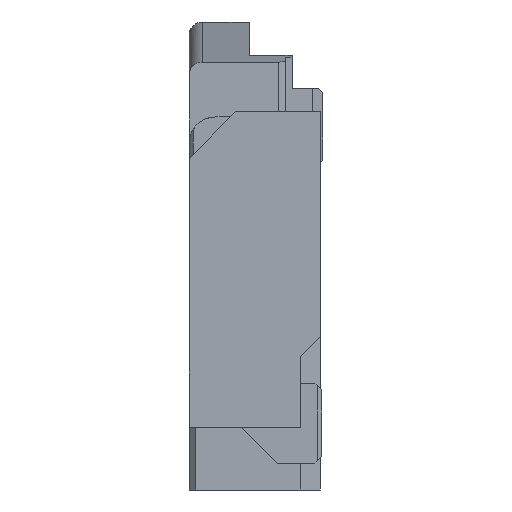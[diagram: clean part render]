
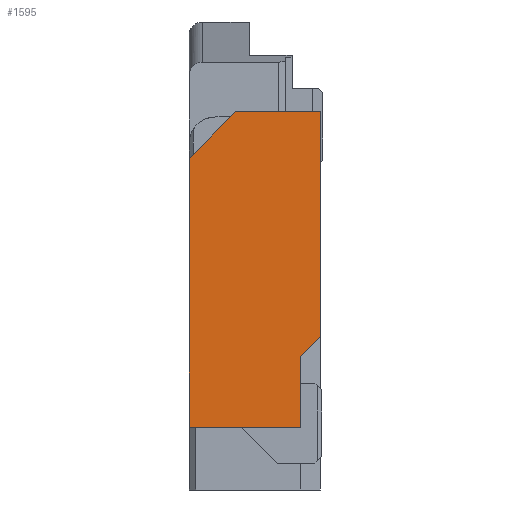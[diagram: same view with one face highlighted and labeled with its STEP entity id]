
A CAD part, left-side view. The second image highlights one B-rep face of the part: STEP entity #1595.
In plain terms, the highlighted planar face has unit normal (-1, 0, 0).
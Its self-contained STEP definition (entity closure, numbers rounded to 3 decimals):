
#365 = LINE ( 'NONE', #378, #9514 ) ;
#378 = CARTESIAN_POINT ( 'NONE',  ( -5.85, 1., -0.52 ) ) ;
#379 = DIRECTION ( 'NONE',  ( 0., -0.707, 0.707 ) ) ;
#497 = LINE ( 'NONE', #498, #11268 ) ;
#498 = CARTESIAN_POINT ( 'NONE',  ( -5.85, 0.17, -2. ) ) ;
#499 = DIRECTION ( 'NONE',  ( 0., 0.707, -0.707 ) ) ;
#858 = EDGE_LOOP ( 'NONE', ( #7540, #7541, #7542, #7543, #7544, #7545, #7546 ) ) ;
#1595 = ADVANCED_FACE ( 'NONE', ( #4529 ), #4530, .F. ) ;
#2028 = AXIS2_PLACEMENT_3D ( 'NONE', #4521, #4532, #4533 ) ;
#2339 = EDGE_CURVE ( 'NONE', #7450, #7444, #365, .T. ) ;
#2378 = EDGE_CURVE ( 'NONE', #7397, #7394, #497, .T. ) ;
#2389 = EDGE_CURVE ( 'NONE', #7402, #7397, #14911, .T. ) ;
#2429 = EDGE_CURVE ( 'NONE', #7444, #7402, #15031, .T. ) ;
#2440 = EDGE_CURVE ( 'NONE', #7449, #7450, #15064, .T. ) ;
#2521 = EDGE_CURVE ( 'NONE', #7429, #7449, #15306, .T. ) ;
#2542 = EDGE_CURVE ( 'NONE', #7429, #7394, #15369, .T. ) ;
#4521 = CARTESIAN_POINT ( 'NONE',  ( -5.85, 0.53, -3. ) ) ;
#4529 = FACE_OUTER_BOUND ( 'NONE', #858, .T. ) ;
#4530 = PLANE ( 'NONE',  #2028 ) ;
#4532 = DIRECTION ( 'NONE',  ( 1., 0., 0. ) ) ;
#4533 = DIRECTION ( 'NONE',  ( 0., 0., 1. ) ) ;
#7394 = VERTEX_POINT ( 'NONE', #13590 ) ;
#7397 = VERTEX_POINT ( 'NONE', #13596 ) ;
#7402 = VERTEX_POINT ( 'NONE', #13599 ) ;
#7429 = VERTEX_POINT ( 'NONE', #13626 ) ;
#7444 = VERTEX_POINT ( 'NONE', #13641 ) ;
#7449 = VERTEX_POINT ( 'NONE', #13646 ) ;
#7450 = VERTEX_POINT ( 'NONE', #13647 ) ;
#7540 = ORIENTED_EDGE ( 'NONE', *, *, #2378, .F. ) ;
#7541 = ORIENTED_EDGE ( 'NONE', *, *, #2389, .F. ) ;
#7542 = ORIENTED_EDGE ( 'NONE', *, *, #2429, .F. ) ;
#7543 = ORIENTED_EDGE ( 'NONE', *, *, #2339, .F. ) ;
#7544 = ORIENTED_EDGE ( 'NONE', *, *, #2440, .F. ) ;
#7545 = ORIENTED_EDGE ( 'NONE', *, *, #2521, .F. ) ;
#7546 = ORIENTED_EDGE ( 'NONE', *, *, #2542, .T. ) ;
#9514 = VECTOR ( 'NONE', #379, 1000. ) ;
#11268 = VECTOR ( 'NONE', #499, 1000. ) ;
#11279 = VECTOR ( 'NONE', #14913, 1000. ) ;
#11323 = VECTOR ( 'NONE', #15033, 1000. ) ;
#11334 = VECTOR ( 'NONE', #15066, 1000. ) ;
#11421 = VECTOR ( 'NONE', #15308, 1000. ) ;
#11443 = VECTOR ( 'NONE', #15371, 1000. ) ;
#13590 = CARTESIAN_POINT ( 'NONE',  ( -5.85, 0.17, -2. ) ) ;
#13596 = CARTESIAN_POINT ( 'NONE',  ( -5.85, 0.02, -1.85 ) ) ;
#13599 = CARTESIAN_POINT ( 'NONE',  ( -5.85, 0.02, -0.17 ) ) ;
#13626 = CARTESIAN_POINT ( 'NONE',  ( -5.85, 0.17, -2.53 ) ) ;
#13641 = CARTESIAN_POINT ( 'NONE',  ( -5.85, 0.65, -0.17 ) ) ;
#13646 = CARTESIAN_POINT ( 'NONE',  ( -5.85, 1., -2.53 ) ) ;
#13647 = CARTESIAN_POINT ( 'NONE',  ( -5.85, 1., -0.52 ) ) ;
#14911 = LINE ( 'NONE', #14912, #11279 ) ;
#14912 = CARTESIAN_POINT ( 'NONE',  ( -5.85, 0.02, -0.17 ) ) ;
#14913 = DIRECTION ( 'NONE',  ( 0., 0., -1. ) ) ;
#15031 = LINE ( 'NONE', #15032, #11323 ) ;
#15032 = CARTESIAN_POINT ( 'NONE',  ( -5.85, 0.02, -0.17 ) ) ;
#15033 = DIRECTION ( 'NONE',  ( 0., -1., 0. ) ) ;
#15064 = LINE ( 'NONE', #15065, #11334 ) ;
#15065 = CARTESIAN_POINT ( 'NONE',  ( -5.85, 1., -1.2 ) ) ;
#15066 = DIRECTION ( 'NONE',  ( 0., 0., 1. ) ) ;
#15306 = LINE ( 'NONE', #15307, #11421 ) ;
#15307 = CARTESIAN_POINT ( 'NONE',  ( -5.85, 0.17, -2.53 ) ) ;
#15308 = DIRECTION ( 'NONE',  ( 0., 1., 0. ) ) ;
#15369 = LINE ( 'NONE', #15370, #11443 ) ;
#15370 = CARTESIAN_POINT ( 'NONE',  ( -5.85, 0.17, -3. ) ) ;
#15371 = DIRECTION ( 'NONE',  ( 0., 0., 1. ) ) ;
